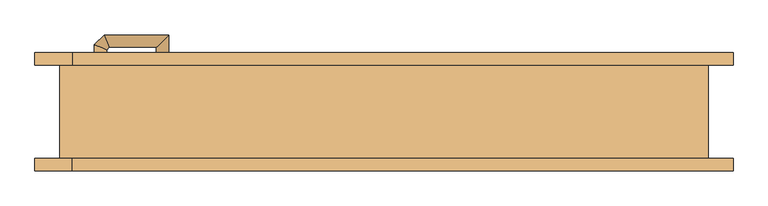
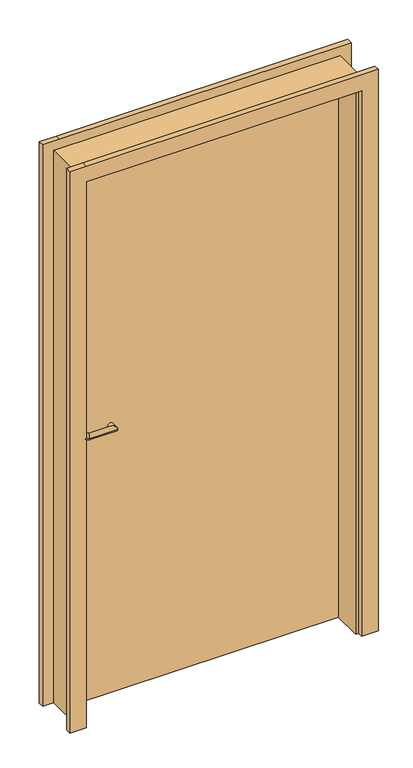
"""IFC4 building model written with IfcOpenShell, lengths in millimetres: door geometry, Porta acessivel 90cm-FLA : 100x210 (acessível s/ barra)."""

import ifcopenshell
import ifcopenshell.guid

model = None  # the IFC model being written
_history = None  # IfcOwnerHistory: only IFC2X3 demands one
_inside = {}  # id of a spatial element -> (the spatial element, [elements in it])
_under = {}  # id of a project, library or spatial element -> (it, [spatial elements below it])
_declared = {}  # id of a project -> (the project, [libraries it declares])
_typed = {}  # id of a type object -> (the type object, [elements of that type])
_made_of = {}  # id of a material, layer set ... -> (it, [elements and type objects made of it])


def new_model(schema):
    """Start an empty IFC model of exactly this schema.

    Asked for "IFC4X3", IfcOpenShell would pick the latest addendum, in which some entities
    have other attributes; the version numbers below select the first issue.
    IFC2X3 requires an IfcOwnerHistory on every rooted entity: one is made here for all.
    """
    global model, _history
    if schema == "IFC4X3":
        model = ifcopenshell.file(schema_version=(4, 3, 0, 0))
    else:
        model = ifcopenshell.file(schema=schema)
    _inside.clear()
    _under.clear()
    _declared.clear()
    _typed.clear()
    _made_of.clear()
    _history = None
    if model.schema == "IFC2X3":
        org = make("IfcOrganization", Name="unknown")
        user = make(
            "IfcPersonAndOrganization",
            ThePerson=make("IfcPerson", FamilyName="unknown"),
            TheOrganization=org,
        )
        app = make(
            "IfcApplication",
            ApplicationDeveloper=org,
            Version="unknown",
            ApplicationFullName="unknown",
            ApplicationIdentifier="unknown",
        )
        _history = make(
            "IfcOwnerHistory",
            OwningUser=user,
            OwningApplication=app,
            ChangeAction="ADDED",
            CreationDate=0,
        )
    return model


def make(cls, **values):
    """One entity of the class cls with the attributes given. An attribute that is None is left unset."""
    return model.create_entity(
        cls, **{name: value for name, value in values.items() if value is not None}
    )


def rooted(cls, **values):
    """An entity with a GlobalId (a new one), such as an element, a storey or a relation."""
    return make(cls, GlobalId=ifcopenshell.guid.new(), OwnerHistory=_history, **values)


def si_unit(unit_type, name, prefix=None):
    """IfcSIUnit, for example si_unit("LENGTHUNIT", "METRE", prefix="MILLI")."""
    return make("IfcSIUnit", UnitType=unit_type, Prefix=prefix, Name=name)


def assignment(units):
    """IfcUnitAssignment: the units of a project."""
    return None if units is None else make("IfcUnitAssignment", Units=units)


def point(xyz):
    """IfcCartesianPoint."""
    return None if xyz is None else make("IfcCartesianPoint", Coordinates=xyz)


def direction(xyz):
    """IfcDirection."""
    return None if xyz is None else make("IfcDirection", DirectionRatios=xyz)


def frame(location, z_axis=None, x_axis=None):
    """IfcAxis2Placement3D, a coordinate frame: its origin and axes. An axis left out is left unset."""
    return make(
        "IfcAxis2Placement3D",
        Location=point(location),
        Axis=direction(z_axis),
        RefDirection=direction(x_axis),
    )


def origin():
    """The frame at (0, 0, 0) with its axes left unset."""
    return frame((0.0, 0.0, 0.0))


def origin_with_axes():
    """The frame at (0, 0, 0) with the z axis (0, 0, 1) and the x axis (1, 0, 0) written out."""
    return frame((0.0, 0.0, 0.0), z_axis=(0.0, 0.0, 1.0), x_axis=(1.0, 0.0, 0.0))


def place(relative_to, where):
    """IfcLocalPlacement: puts the frame where relative to a parent placement (None: the world)."""
    return make(
        "IfcLocalPlacement", PlacementRelTo=relative_to, RelativePlacement=where
    )


def context(
    kind, dimensions, precision=None, world=None, true_north=None, identifier=None
):
    """IfcGeometricRepresentationContext, for example the 3D "Model" context."""
    return make(
        "IfcGeometricRepresentationContext",
        ContextIdentifier=identifier,
        ContextType=kind,
        CoordinateSpaceDimension=dimensions,
        Precision=precision,
        WorldCoordinateSystem=world,
        TrueNorth=true_north,
    )


def project(units=None, contexts=None):
    """IfcProject with its units and contexts."""
    return rooted(
        "IfcProject",
        Name="project",
        RepresentationContexts=contexts,
        UnitsInContext=assignment(units),
    )


def spatial(cls, under=None, at=None, **own):
    """A site, building, storey or space (cls), placed at a placement, below another one or the project."""
    s = rooted(cls, ObjectPlacement=at, **own)
    if under is not None:
        _under.setdefault(under.id(), (under, []))[1].append(s)
    return s


def polyline(points):
    """IfcPolyline through the points."""
    return make("IfcPolyline", Points=[point(p) for p in points])


def circle_curve(where, radius):
    """IfcCircle in the frame where."""
    return make("IfcCircle", Position=where, Radius=radius)


def ellipse_curve(where, semi_axis1, semi_axis2):
    """IfcEllipse in the frame where."""
    return make(
        "IfcEllipse", Position=where, SemiAxis1=semi_axis1, SemiAxis2=semi_axis2
    )


def outline(outer, holes=None, kind="AREA"):
    """IfcArbitraryClosedProfileDef: a profile drawn as a closed curve; with holes, ...WithVoids."""
    if holes is None:
        return make("IfcArbitraryClosedProfileDef", ProfileType=kind, OuterCurve=outer)
    return make(
        "IfcArbitraryProfileDefWithVoids",
        ProfileType=kind,
        OuterCurve=outer,
        InnerCurves=holes,
    )


def extrude(swept, where, along, depth):
    """IfcExtrudedAreaSolid: the profile swept, set in the frame where, extruded along a direction by depth."""
    return make(
        "IfcExtrudedAreaSolid",
        SweptArea=swept,
        Position=where,
        ExtrudedDirection=direction(along),
        Depth=depth,
    )


def faces_of(points, faces, orient=None, outer=None):
    """IfcFace entities. A face is a list of loops; a loop is a list of indices into points, from 0.

    orient and outer hold one flag for each loop. By default every Orientation is true, the
    first loop of a face is its IfcFaceOuterBound and the others are IfcFaceBound.
    """
    made = []
    for i, loops in enumerate(faces):
        bounds = []
        for j, loop in enumerate(loops):
            is_outer = j == 0 if outer is None else outer[i][j]
            bounds.append(
                make(
                    "IfcFaceOuterBound" if is_outer else "IfcFaceBound",
                    Bound=make("IfcPolyLoop", Polygon=[points[k] for k in loop]),
                    Orientation=True if orient is None else orient[i][j],
                )
            )
        made.append(make("IfcFace", Bounds=bounds))
    return made


def faceted_brep(points, faces, orient=None, outer=None, voids=None):
    """IfcFacetedBrep: a solid bounded by flat faces; with voids (closed shells), ...WithVoids."""
    shared = [point(p) for p in points]
    hull = make("IfcClosedShell", CfsFaces=faces_of(shared, faces, orient, outer))
    if voids is None:
        return make("IfcFacetedBrep", Outer=hull)
    return make(
        "IfcFacetedBrepWithVoids",
        Outer=hull,
        Voids=[
            make(cls, CfsFaces=faces_of(shared, fs, o, b)) for cls, fs, o, b in voids
        ],
    )


def shape(context_of_items, identifier, shape_type, items):
    """IfcShapeRepresentation: the items that make up one representation, for example the "Body"."""
    return make(
        "IfcShapeRepresentation",
        ContextOfItems=context_of_items,
        RepresentationIdentifier=identifier,
        RepresentationType=shape_type,
        Items=items,
    )


def source(mapping_origin, context_of_items, identifier, shape_type, items):
    """IfcRepresentationMap: a shape defined once, which mapped items show again and again."""
    return make(
        "IfcRepresentationMap",
        MappingOrigin=mapping_origin,
        MappedRepresentation=shape(context_of_items, identifier, shape_type, items),
    )


def transform(
    local_origin,
    x_axis=None,
    y_axis=None,
    z_axis=None,
    scale=None,
    scale2=None,
    scale3=None,
    uniform=True,
):
    """IfcCartesianTransformationOperator3D, or its non-uniform kind. x_axis, y_axis, z_axis: its Axis1, 2, 3."""
    if uniform:
        return make(
            "IfcCartesianTransformationOperator3D",
            Axis1=direction(x_axis),
            Axis2=direction(y_axis),
            LocalOrigin=point(local_origin),
            Scale=scale,
            Axis3=direction(z_axis),
        )
    return make(
        "IfcCartesianTransformationOperator3DnonUniform",
        Axis1=direction(x_axis),
        Axis2=direction(y_axis),
        LocalOrigin=point(local_origin),
        Scale=scale,
        Axis3=direction(z_axis),
        Scale2=scale2,
        Scale3=scale3,
    )


def mapped(mapping_source, mapping_target):
    """IfcMappedItem: shows the shape of a source again, moved by a transform."""
    return make(
        "IfcMappedItem", MappingSource=mapping_source, MappingTarget=mapping_target
    )


def made_of(thing, what):
    """Note that an element or type object is made of a material, layer set ...; save() writes the relation."""
    if what is not None:
        _made_of.setdefault(what.id(), (what, []))[1].append(thing)
    return thing


def element(
    cls,
    number,
    at=None,
    inside=None,
    cuts=None,
    type_object=None,
    material=None,
    context=None,
    identifier="Body",
    shape_type=None,
    held_by="IfcProductDefinitionShape",
    body=None,
    shapes=None,
    **own,
):
    """One element of the class cls, such as IfcWall. Its Tag is "e" and its number.

    at: its placement. inside: the storey or other place that contains it. cuts: it is an
    opening in that element (IfcRelVoidsElement). A single representation is given by context,
    identifier, shape_type and body (its items); several are given by shapes. held_by: the class
    of the entity that holds the representations. save() writes the other relations.
    """
    e = rooted(cls, Tag="e%d" % number, ObjectPlacement=at, **own)
    if body is not None:
        shapes = [shape(context, identifier, shape_type, body)]
    if shapes is not None:
        e.Representation = make(held_by, Representations=shapes)
    if inside is not None:
        _inside.setdefault(inside.id(), (inside, []))[1].append(e)
    if cuts is not None:
        rooted(
            "IfcRelVoidsElement", RelatingBuildingElement=cuts, RelatedOpeningElement=e
        )
    if type_object is not None:
        _typed.setdefault(type_object.id(), (type_object, []))[1].append(e)
    return made_of(e, material)


def aggregate(whole, parts):
    """IfcRelAggregates: a whole, such as a stair, and the parts it consists of."""
    return rooted("IfcRelAggregates", RelatingObject=whole, RelatedObjects=parts)


def save(model, path):
    """Write the relations noted so far, then the file.

    IfcRelAggregates (storeys below a building ...), IfcRelContainedInSpatialStructure (elements
    in a storey), IfcRelDefinesByType, IfcRelAssociatesMaterial and IfcRelDeclares: one each for
    every whole, place, type object, material and project.
    """
    for whole, parts in _under.values():
        aggregate(whole, parts)
    for where, things in _inside.values():
        rooted(
            "IfcRelContainedInSpatialStructure",
            RelatedElements=things,
            RelatingStructure=where,
        )
    for kind, things in _typed.values():
        rooted("IfcRelDefinesByType", RelatedObjects=things, RelatingType=kind)
    for what, things in _made_of.values():
        rooted("IfcRelAssociatesMaterial", RelatedObjects=things, RelatingMaterial=what)
    for by, libraries in _declared.values():
        rooted("IfcRelDeclares", RelatingContext=by, RelatedDefinitions=libraries)
    model.write(path)


def plane_surface(at):
    """IfcPlane: the flat surface through the origin of the frame at, square to its z axis."""
    return make("IfcPlane", Position=at)


def cylinder_surface(at, radius):
    """IfcCylindricalSurface: all points at the distance radius from the z axis of the frame at."""
    return make("IfcCylindricalSurface", Position=at, Radius=radius)


def advanced_brep(points, edges, surfaces, faces):
    """IfcAdvancedBrep: a solid bounded by faces that lie on surfaces and meet in shared edges.

    An edge is (start, end): straight between two places in points (the first is 0);
    or (start, end, curve); or (start, end, curve, False) where it runs against its curve.
    A face is (place in surfaces, loops), or (place, loops, False) where it looks against
    its surface's normal. A loop lists edges by number (the first is 1), with a minus sign
    where the edge is run from its end to its start. The first loop is the outer one.
    """
    corners = [point(p) for p in points]
    vertices = [make("IfcVertexPoint", VertexGeometry=c) for c in corners]
    made = []
    for start, end, *more in edges:
        made.append(
            make(
                "IfcEdgeCurve",
                EdgeStart=vertices[start],
                EdgeEnd=vertices[end],
                EdgeGeometry=more[0] if more else make("IfcPolyline", Points=[corners[start], corners[end]]),
                SameSense=more[1] if len(more) > 1 else True,
            )
        )
    hull = []
    for where, loops, *sense in faces:
        bounds = []
        for j, loop in enumerate(loops):
            ring = [make("IfcOrientedEdge", EdgeElement=made[abs(k) - 1], Orientation=k > 0) for k in loop]
            bounds.append(
                make(
                    "IfcFaceOuterBound" if j == 0 else "IfcFaceBound",
                    Bound=make("IfcEdgeLoop", EdgeList=ring),
                    Orientation=True,
                )
            )
        hull.append(make("IfcAdvancedFace", Bounds=bounds, FaceSurface=surfaces[where], SameSense=sense[0] if sense else True))
    return make("IfcAdvancedBrep", Outer=make("IfcClosedShell", CfsFaces=hull))


def door_11dd9e2f(model_context):
    return source(origin(), model_context, "Body", "SolidModel", [
        faceted_brep([(-527.5, 75.0, 2120.0), (-527.5, -75.0, 2120.0), (512.5, -75.0, 2120.0), (512.5, 75.0, 2120.0), (-507.5, 75.0, 0.0), (-507.5, 33.8, 0.0), (-497.5, 33.8, 0.0), (-497.5, -75.0, 0.0), (-527.5, -75.0, 0.0), (-527.5, 75.0, 0.0), (512.5, 75.0, 0.0), (492.5, 75.0, 0.0), (492.5, 75.0, 2100.0), (-507.5, 75.0, 2100.0), (-497.5, -75.0, 2090.0), (482.5, -75.0, 2090.0), (482.5, -75.0, 0.0), (512.5, -75.0, 0.0), (-497.5, 33.8, 2100.0), (-497.5, 31.4, 2100.0), (-497.5, 31.4, 2090.0), (-507.5, 33.8, 2100.0), (482.5, 33.8, 0.0), (492.5, 33.8, 0.0), (492.5, 33.8, 2100.0), (482.5, 33.8, 2100.0), (482.5, 31.4, 2090.0), (482.5, 31.4, 2100.0)], [[[0, 1, 2, 3]], [[4, 5, 6, 7, 8, 9]], [[0, 3, 10, 11, 12, 13, 4, 9]], [[1, 0, 9, 8]], [[8, 7, 14, 15, 16, 17, 2, 1]], [[7, 6, 18, 19, 20, 14]], [[6, 5, 21, 18]], [[5, 4, 13, 21]], [[11, 10, 17, 16, 22, 23]], [[11, 23, 24, 12]], [[23, 22, 25, 24]], [[22, 16, 15, 26, 27, 25]], [[3, 2, 17, 10]], [[13, 12, 24, 25, 27, 19, 18, 21]], [[19, 27, 26, 20]], [[15, 14, 20, 26]]]),
        extrude(outline(polyline([(2096.0, -507.5), (2096.0, 492.5), (0.0, 492.5), (0.0, 552.5), (2096.0, 552.5), (2156.0, 552.5), (2156.0, -507.5), (2156.0, -567.5), (0.0, -567.5), (0.0, -507.5), (2096.0, -507.5)])), frame((0.0, -95.0, 0.0), z_axis=(0.0, 1.0, 0.0), x_axis=(0.0, 0.0, 1.0)), (0.0, 0.0, 1.0), 20.0),
        extrude(outline(polyline([(2096.0, -507.5), (2096.0, 492.5), (0.0, 492.5), (0.0, 552.5), (2096.0, 552.5), (2156.0, 552.5), (2156.0, -507.5), (2156.0, -567.5), (0.0, -567.5), (0.0, -507.5), (2096.0, -507.5)])), frame((0.0, 75.0, 0.0), z_axis=(0.0, 1.0, 0.0), x_axis=(0.0, 0.0, 1.0)), (0.0, 0.0, 1.0), 20.0),
        extrude(outline(polyline([(-507.5, 62.6), (492.5, 62.6), (492.5, 33.8), (-507.5, 33.8), (-507.5, 62.6)])), origin_with_axes(), (0.0, 0.0, 1.0), 2100.0),
        advanced_brep(
        [(-472.5, 33.8, 1050.0), (-452.5, 33.8, 1050.0), (-472.5, -10.3421356, 1050.0), (-452.5, -2.0578644, 1050.0), (-456.6421356, -26.2, 1050.0), (-448.3578644, -6.2, 1050.0), (-352.5, -26.2, 1050.0), (-372.5, -6.2, 1050.0), (-352.5, 3.8, 1050.0), (-372.5, 3.8, 1050.0)],
        [
            (0, 1, circle_curve(frame((-462.5, 33.8, 1050.0), z_axis=(0.0, 1.0, 0.0), x_axis=(1.0, 0.0, 0.0)), 10.0)),
            (1, 0, circle_curve(frame((-462.5, 33.8, 1050.0), z_axis=(0.0, 1.0, 0.0), x_axis=(1.0, 0.0, 0.0)), 10.0)),
            (0, 2),
            (2, 3, ellipse_curve(frame((-462.5, -6.2, 1050.0), z_axis=(-0.3826834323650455, 0.923879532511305, 0.0), x_axis=(0.9238795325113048, 0.38268343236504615, 0.0)), 10.823922, 10.0)),
            (3, 1),
            (3, 2, ellipse_curve(frame((-462.5, -6.2, 1050.0), z_axis=(-0.3826834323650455, 0.923879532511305, 0.0), x_axis=(0.9238795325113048, 0.38268343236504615, 0.0)), 10.823922, 10.0)),
            (2, 4),
            (4, 5, ellipse_curve(frame((-452.5, -16.2, 1050.0), z_axis=(-0.9238795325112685, 0.3826834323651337, 0.0), x_axis=(0.3826834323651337, 0.9238795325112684, 0.0)), 10.823922, 10.0)),
            (5, 3),
            (5, 4, ellipse_curve(frame((-452.5, -16.2, 1050.0), z_axis=(-0.9238795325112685, 0.3826834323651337, 0.0), x_axis=(0.3826834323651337, 0.9238795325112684, 0.0)), 10.823922, 10.0)),
            (4, 6),
            (6, 7, ellipse_curve(frame((-362.5, -16.2, 1050.0), z_axis=(-0.7071067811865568, -0.7071067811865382, 0.0), x_axis=(-0.7071067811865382, 0.7071067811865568, 0.0)), 14.1421356, 10.0)),
            (7, 5),
            (7, 6, ellipse_curve(frame((-362.5, -16.2, 1050.0), z_axis=(-0.7071067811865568, -0.7071067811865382, 0.0), x_axis=(-0.7071067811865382, 0.7071067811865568, 0.0)), 14.1421356, 10.0)),
            (8, 9, circle_curve(frame((-362.5, 3.8, 1050.0), z_axis=(0.0, 1.0, 0.0), x_axis=(-1.0, 0.0, 0.0)), 10.0)),
            (9, 8, circle_curve(frame((-362.5, 3.8, 1050.0), z_axis=(0.0, 1.0, 0.0), x_axis=(-1.0, 0.0, 0.0)), 10.0)),
            (6, 8),
            (9, 7),
        ],
        [
            plane_surface(frame((-462.5, 33.8, 0.0), z_axis=(0.0, 1.0, 0.0), x_axis=(0.0, 0.0, 1.0))),
            cylinder_surface(frame((-462.5, 33.8, 1050.0), z_axis=(0.0, 1.0, 0.0), x_axis=(1.0, 0.0, 0.0)), 10.0),
            cylinder_surface(frame((-462.5, -6.2, 1050.0), z_axis=(-0.7071067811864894, 0.7071067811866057, 0.0), x_axis=(0.7071067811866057, 0.7071067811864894, 0.0)), 10.0),
            cylinder_surface(frame((-452.5, -16.2, 1050.0), z_axis=(-1.0, 0.0, 0.0), x_axis=(0.0, 1.0, 0.0)), 10.0),
            plane_surface(frame((-362.5, 3.8, 0.0), z_axis=(0.0, 1.0, 0.0), x_axis=(0.0, 0.0, 1.0))),
            cylinder_surface(frame((-362.5, -16.2, 1050.0), z_axis=(0.0, -1.0, 0.0), x_axis=(-1.0, 0.0, 0.0)), 10.0),
        ],
        [
            (0, [[1, 2]]),
            (1, [[-1, 3, 4, 5]]),
            (1, [[-2, -5, 6, -3]]),
            (2, [[-4, 7, 8, 9]]),
            (2, [[-6, -9, 10, -7]]),
            (3, [[-8, 11, 12, 13]]),
            (3, [[-10, -13, 14, -11]]),
            (4, [[15, 16]]),
            (5, [[-12, 17, -16, 18]]),
            (5, [[-14, -18, -15, -17]]),
        ],
    ),
        advanced_brep(
        [(-452.5, 63.8, 1050.0), (-472.5, 63.8, 1050.0), (-452.5, 99.6578644, 1050.0), (-472.5, 107.9421356, 1050.0), (-448.3578644, 103.8, 1050.0), (-456.6421356, 123.8, 1050.0), (-372.5, 103.8, 1050.0), (-352.5, 123.8, 1050.0), (-372.5, 93.8, 1050.0), (-352.5, 93.8, 1050.0)],
        [
            (0, 1, circle_curve(frame((-462.5, 63.8, 1050.0), z_axis=(0.0, -1.0, 0.0), x_axis=(-1.0, 0.0, 0.0)), 10.0)),
            (1, 0, circle_curve(frame((-462.5, 63.8, 1050.0), z_axis=(0.0, -1.0, 0.0), x_axis=(-1.0, 0.0, 0.0)), 10.0)),
            (0, 2),
            (2, 3, ellipse_curve(frame((-462.5, 103.8, 1050.0), z_axis=(-0.382683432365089, -0.9238795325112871, 0.0), x_axis=(0.9238795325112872, -0.3826834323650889, 0.0)), 10.823922, 10.0)),
            (3, 1),
            (3, 2, ellipse_curve(frame((-462.5, 103.8, 1050.0), z_axis=(-0.382683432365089, -0.9238795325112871, 0.0), x_axis=(0.9238795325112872, -0.3826834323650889, 0.0)), 10.823922, 10.0)),
            (2, 4),
            (4, 5, ellipse_curve(frame((-452.5, 113.8, 1050.0), z_axis=(-0.9238795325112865, -0.3826834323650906, 0.0), x_axis=(0.38268343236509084, -0.9238795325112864, 0.0)), 10.823922, 10.0)),
            (5, 3),
            (5, 4, ellipse_curve(frame((-452.5, 113.8, 1050.0), z_axis=(-0.9238795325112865, -0.3826834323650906, 0.0), x_axis=(0.38268343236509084, -0.9238795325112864, 0.0)), 10.823922, 10.0)),
            (4, 6),
            (6, 7, ellipse_curve(frame((-362.5, 113.8, 1050.0), z_axis=(-0.7071067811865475, 0.7071067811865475, 0.0), x_axis=(-0.7071067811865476, -0.7071067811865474, 0.0)), 14.1421356, 10.0)),
            (7, 5),
            (7, 6, ellipse_curve(frame((-362.5, 113.8, 1050.0), z_axis=(-0.7071067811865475, 0.7071067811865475, 0.0), x_axis=(-0.7071067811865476, -0.7071067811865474, 0.0)), 14.1421356, 10.0)),
            (8, 9, circle_curve(frame((-362.5, 93.8, 1050.0), z_axis=(0.0, -1.0, 0.0), x_axis=(1.0, 0.0, 0.0)), 10.0)),
            (9, 8, circle_curve(frame((-362.5, 93.8, 1050.0), z_axis=(0.0, -1.0, 0.0), x_axis=(1.0, 0.0, 0.0)), 10.0)),
            (6, 8),
            (9, 7),
        ],
        [
            plane_surface(frame((-462.5, 63.8, 0.0), z_axis=(0.0, -1.0, 0.0), x_axis=(0.0, 0.0, 1.0))),
            cylinder_surface(frame((-462.5, 63.8, 1050.0), z_axis=(0.0, -1.0, 0.0), x_axis=(-1.0, 0.0, 0.0)), 10.0),
            cylinder_surface(frame((-462.5, 103.8, 1050.0), z_axis=(-0.7071067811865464, -0.7071067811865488, 0.0), x_axis=(-0.7071067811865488, 0.7071067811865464, 0.0)), 10.0),
            cylinder_surface(frame((-452.5, 113.8, 1050.0), z_axis=(-1.0, 0.0, 0.0), x_axis=(0.0, 1.0, 0.0)), 10.0),
            plane_surface(frame((-362.5, 93.8, 0.0), z_axis=(0.0, -1.0, 0.0), x_axis=(0.0, 0.0, 1.0))),
            cylinder_surface(frame((-362.5, 113.8, 1050.0), z_axis=(0.0, 1.0, 0.0), x_axis=(1.0, 0.0, 0.0)), 10.0),
        ],
        [
            (0, [[1, 2]]),
            (1, [[-1, 3, 4, 5]]),
            (1, [[-2, -5, 6, -3]]),
            (2, [[-4, 7, 8, 9]]),
            (2, [[-6, -9, 10, -7]]),
            (3, [[-8, 11, 12, 13]]),
            (3, [[-10, -13, 14, -11]]),
            (4, [[15, 16]]),
            (5, [[-12, 17, -16, 18]]),
            (5, [[-14, -18, -15, -17]]),
        ],
    ),
    ])


if __name__ == "__main__":
    model = new_model("IFC4")
    model_context = context("Model", 3, world=origin())
    ifc_project = project(units=[si_unit("LENGTHUNIT", "METRE", prefix="MILLI")], contexts=[model_context])
    site = spatial("IfcSite", under=ifc_project)
    building = spatial("IfcBuilding", under=site)
    placement = place(None, origin())
    door_shape = door_11dd9e2f(model_context)
    element("IfcDoor", 1, ObjectType="Porta acessivel 90cm-FLA : 100x210 (acessível s/ barra)", at=placement, inside=building, context=model_context, shape_type="MappedRepresentation", body=[
        mapped(door_shape, transform((0.0, 0.0, 0.0), x_axis=(1.0, 0.0, 0.0), y_axis=(0.0, 1.0, 0.0), z_axis=(0.0, 0.0, 1.0))),
    ])
    save(model, "model.ifc")
